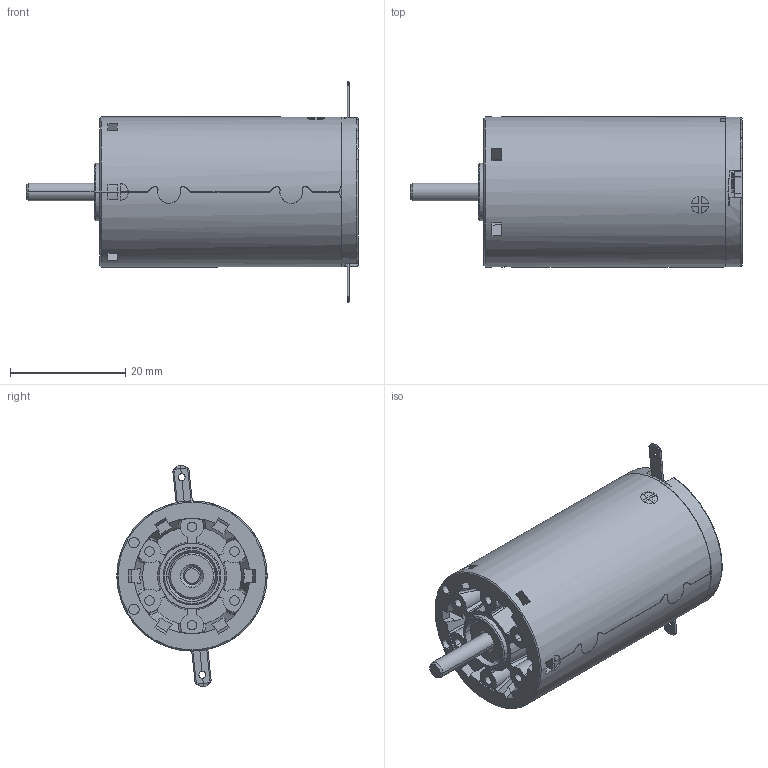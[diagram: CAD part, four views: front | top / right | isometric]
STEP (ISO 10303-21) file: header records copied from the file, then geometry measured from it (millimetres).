
FILE_DESCRIPTION((''),'2;1');
FILE_NAME('110923_AMAX26_GB_6W_KL_1WE','2016-11-22T',('mmagvisi'),(''),'CREO PARAMETRIC BY PTC INC, 2016050','CREO PARAMETRIC BY PTC INC, 2016050','');
FILE_SCHEMA(('CONFIG_CONTROL_DESIGN'));
Length unit declared in the file: millimetre
Products named in the file (1): 110923_AMAX26_GB_6W_KL_1WE
Bounding box: 57.5 x 26 x 38.32 mm (x, y, z)
Volume: 22979.9 mm3; surface area: 6372.2 mm2
Topology: 1 solids, 1 shells, 389 faces, 1017 edges, 644 vertices
Faces by surface type: plane 246, cylinder 97, bspline 24, cone 20, torus 2
Entity records: 19343 total; most frequent: CARTESIAN_POINT 4502, ORIENTED_EDGE 2034, DIRECTION 1831, PRESENTATION_STYLE_ASSIGNMENT 1315, STYLED_ITEM 1018, CURVE_STYLE 1017, EDGE_CURVE 1017, VERTEX_POINT 644
